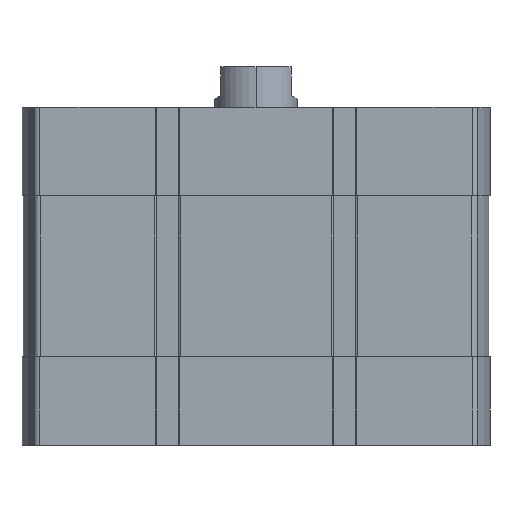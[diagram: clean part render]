
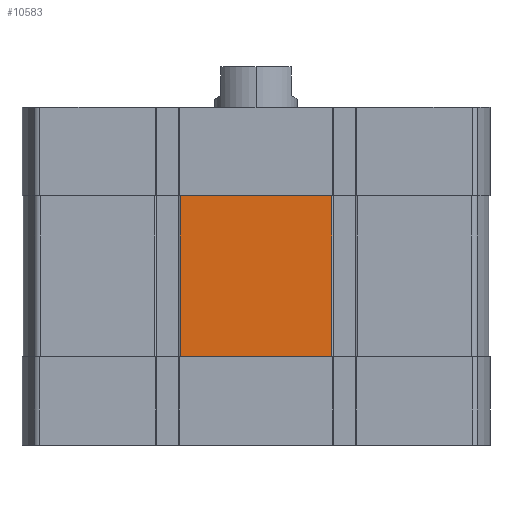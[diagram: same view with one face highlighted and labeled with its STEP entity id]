
A CAD part, left-side view. The second image highlights one B-rep face of the part: STEP entity #10583.
In plain terms, the highlighted planar face has unit normal (-1, 0, 0).
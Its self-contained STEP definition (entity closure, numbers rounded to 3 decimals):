
#65 = VERTEX_POINT ( 'NONE', #3086 ) ;
#505 = EDGE_CURVE ( 'NONE', #13187, #11635, #9186, .T. ) ;
#1269 = AXIS2_PLACEMENT_3D ( 'NONE', #19723, #13561, #13461 ) ;
#1376 = DIRECTION ( 'NONE',  ( 0., 0., 1. ) ) ;
#2359 = PLANE ( 'NONE',  #1269 ) ;
#3086 = CARTESIAN_POINT ( 'NONE',  ( -56.5, -18.345, -21.5 ) ) ;
#3518 = ORIENTED_EDGE ( 'NONE', *, *, #505, .F. ) ;
#3746 = EDGE_LOOP ( 'NONE', ( #18892, #3518, #4585, #13941 ) ) ;
#4585 = ORIENTED_EDGE ( 'NONE', *, *, #16450, .T. ) ;
#5368 = DIRECTION ( 'NONE',  ( 0., -1., 0. ) ) ;
#6105 = CARTESIAN_POINT ( 'NONE',  ( -56.5, 18.345, -21.5 ) ) ;
#6174 = EDGE_CURVE ( 'NONE', #11635, #65, #9493, .T. ) ;
#7066 = CARTESIAN_POINT ( 'NONE',  ( -56.5, 18.345, -60.5 ) ) ;
#7299 = VECTOR ( 'NONE', #20174, 1000. ) ;
#7532 = CARTESIAN_POINT ( 'NONE',  ( -56.5, -18.345, -60.5 ) ) ;
#8173 = CARTESIAN_POINT ( 'NONE',  ( -56.5, -18.345, -60.5 ) ) ;
#9099 = VECTOR ( 'NONE', #5368, 1000. ) ;
#9186 = LINE ( 'NONE', #15360, #17167 ) ;
#9493 = LINE ( 'NONE', #6105, #7299 ) ;
#9904 = EDGE_CURVE ( 'NONE', #15862, #65, #12172, .T. ) ;
#10583 = ADVANCED_FACE ( 'NONE', ( #11821 ), #2359, .T. ) ;
#11635 = VERTEX_POINT ( 'NONE', #19628 ) ;
#11821 = FACE_OUTER_BOUND ( 'NONE', #3746, .T. ) ;
#12172 = LINE ( 'NONE', #7532, #19192 ) ;
#13187 = VERTEX_POINT ( 'NONE', #7066 ) ;
#13461 = DIRECTION ( 'NONE',  ( 0., 0., 1. ) ) ;
#13561 = DIRECTION ( 'NONE',  ( -1., 0., 0. ) ) ;
#13941 = ORIENTED_EDGE ( 'NONE', *, *, #9904, .T. ) ;
#15360 = CARTESIAN_POINT ( 'NONE',  ( -56.5, 18.345, -60.5 ) ) ;
#15862 = VERTEX_POINT ( 'NONE', #8173 ) ;
#16162 = CARTESIAN_POINT ( 'NONE',  ( -56.5, 18.345, -60.5 ) ) ;
#16450 = EDGE_CURVE ( 'NONE', #13187, #15862, #16464, .T. ) ;
#16464 = LINE ( 'NONE', #16162, #9099 ) ;
#17167 = VECTOR ( 'NONE', #1376, 1000. ) ;
#18423 = DIRECTION ( 'NONE',  ( 0., 0., 1. ) ) ;
#18892 = ORIENTED_EDGE ( 'NONE', *, *, #6174, .F. ) ;
#19192 = VECTOR ( 'NONE', #18423, 1000. ) ;
#19628 = CARTESIAN_POINT ( 'NONE',  ( -56.5, 18.345, -21.5 ) ) ;
#19723 = CARTESIAN_POINT ( 'NONE',  ( -56.5, 18.345, -60.5 ) ) ;
#20174 = DIRECTION ( 'NONE',  ( 0., -1., 0. ) ) ;
